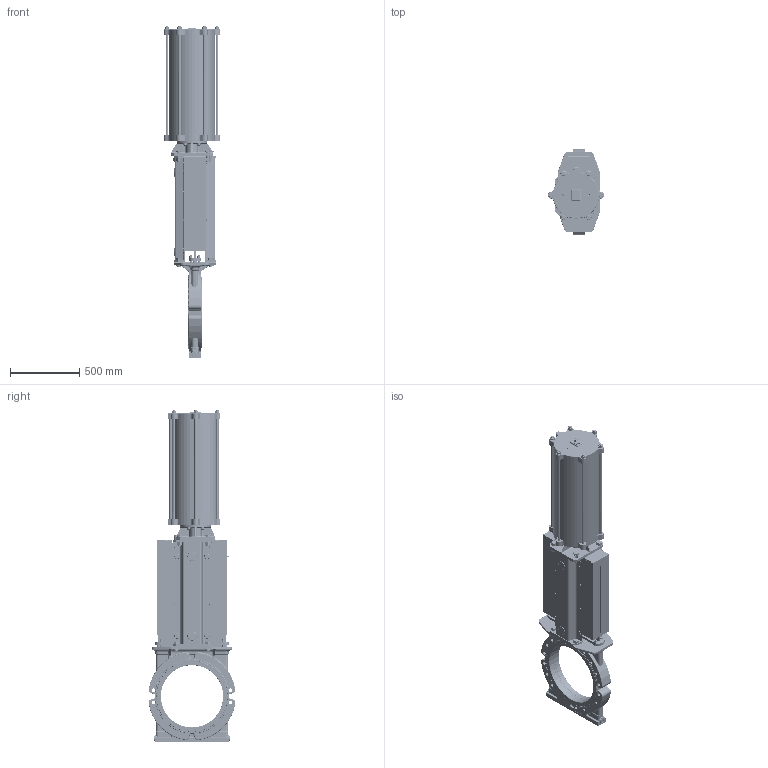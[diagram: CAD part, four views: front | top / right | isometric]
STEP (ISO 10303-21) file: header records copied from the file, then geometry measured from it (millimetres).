
FILE_DESCRIPTION(/* description */ (''),/* implementation_level */ '2;1');
FILE_NAME(/* name */ 'F:\Emir\3D-block special\SLV\SLV-DN450-PN10-FRSC320-575.stp',/* time_stamp */ '2018-09-03T15:09:42+02:00',/* author */ ('emimus'),/* organization */ (''),/* preprocessor_version */ 'ST-DEVELOPER v17',/* originating_system */ 'Autodesk Inventor 2018',/* authorisation */ '');
FILE_SCHEMA (('CONFIG_CONTROL_DESIGN'));
Products named in the file (1): SLV-DN450-PN10-FRSC320-575
Bounding box: 406 x 627.8 x 2397 mm (x, y, z)
Volume: 47517866.2 mm3; surface area: 8598665.4 mm2
Topology: 2 solids, 2 shells, 3739 faces, 9276 edges, 5738 vertices
Faces by surface type: plane 1296, cylinder 1053, bspline 495, torus 417, cone 358, sphere 120
Full cylindrical faces by diameter (mm): 2.459 x8, 3.5 x8, 4.917 x19, 5 x6, 6 x27, 6.647 x4, 7.5 x4, 8.376 x4, 8.88 x1, 9.5 x2, 10 x16, 10.106 x2, 12 x18, 13 x8, 14 x6, 15 x9, 16 x6, 18 x1, 18.2 x4, 18.5 x2, 18.631 x2, 20 x12, 21 x6, 22 x6, 24 x31, 25 x5, 25.5 x2, 26 x12, 28 x8, 29 x8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
Entity records: 187850 total; most frequent: CARTESIAN_POINT 101016, DIRECTION 18310, ORIENTED_EDGE 18290, EDGE_CURVE 9145, AXIS2_PLACEMENT_3D 7535, VERTEX_POINT 5738, EDGE_LOOP 4231, CIRCLE 4111
